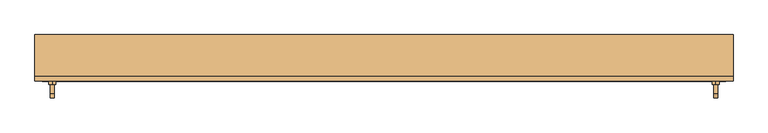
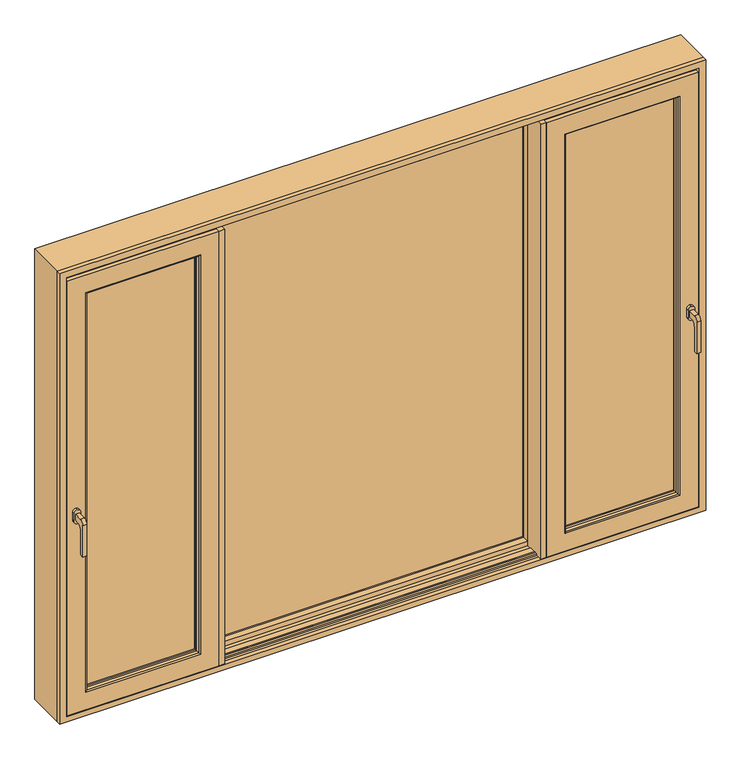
"""IFC4 building model written with IfcOpenShell, lengths in millimetres: door geometry, 3_pod-kli_2+fix : 3_pod-kli_2+fix."""

from ifc_helpers import new_model, si_unit, point, frame, frame_2d, origin, place, context, project, spatial, polyline, circle_curve, ellipse_curve, trimmed, segment, composite_curve, outline, extrude, faceted_brep, source, transform, mapped, element, save
from ifc_brep_helpers import plane_surface, cylinder_surface, advanced_brep


def door_69bad120(model_context):
    return source(origin(), model_context, "Body", "SolidModel", [
        extrude(outline(composite_curve([segment(polyline([(-88.0, 985.0), (-104.0, 985.0)]), True, "CONTINUOUS"), segment(trimmed(circle_curve(frame_2d((-104.0, 960.0)), 25.0), [point((-104.0, 985.0))], [point((-129.0, 960.0))], True, "CARTESIAN"), True, "CONTINUOUS"), segment(polyline([(-129.0, 960.0), (-129.0, 840.0), (-147.0, 840.0), (-147.0, 995.0)]), True, "CONTINUOUS"), segment(trimmed(circle_curve(frame_2d((-127.0, 995.0)), 20.0), [point((-147.0, 995.0))], [point((-127.0, 1015.0))], False, "CARTESIAN"), True, "CONTINUOUS"), segment(polyline([(-127.0, 1015.0), (-88.0, 1015.0), (-88.0, 1000.0), (-88.0, 985.0)]), True, "CONTINUOUS")], self_intersect=False)), frame((1416.6076899, 0.0, 0.0), z_axis=(1.0, 0.0, 0.0), x_axis=(0.0, 1.0, 0.0)), (0.0, 0.0, 1.0), 18.0),
        extrude(outline(composite_curve([segment(polyline([(981.0, 1440.6076899), (1019.0, 1440.6076899)]), True, "CONTINUOUS"), segment(trimmed(circle_curve(frame_2d((1019.0, 1425.6076899)), 15.0), [point((1019.0, 1440.6076899))], [point((1034.0, 1425.6076899))], False, "CARTESIAN"), True, "CONTINUOUS"), segment(trimmed(circle_curve(frame_2d((1019.0, 1425.6076899)), 15.0), [point((1034.0, 1425.6076899))], [point((1019.0, 1410.6076899))], False, "CARTESIAN"), True, "CONTINUOUS"), segment(polyline([(1019.0, 1410.6076899), (981.0, 1410.6076899)]), True, "CONTINUOUS"), segment(trimmed(circle_curve(frame_2d((981.0, 1425.6076899)), 15.0), [point((981.0, 1410.6076899))], [point((966.0, 1425.6076899))], False, "CARTESIAN"), True, "CONTINUOUS"), segment(trimmed(circle_curve(frame_2d((981.0, 1425.6076899)), 15.0), [point((966.0, 1425.6076899))], [point((981.0, 1440.6076899))], False, "CARTESIAN"), True, "CONTINUOUS")], self_intersect=False)), frame((0.0, -88.0, 0.0), z_axis=(0.0, 1.0, 0.0), x_axis=(0.0, 0.0, 1.0)), (0.0, 0.0, 1.0), 13.0),
        extrude(outline(polyline([(734.0002576, -75.0), (734.0002576, 30.0016512), (759.3, 30.0016512), (759.3, -75.0), (734.0002576, -75.0)])), frame((0.0, 0.0, 27.9994282), z_axis=(0.0, 0.0, 1.0), x_axis=(1.0, 0.0, 0.0)), (0.0, 0.0, 1.0), 2132.0005718),
        advanced_brep(
        [(845.6733525, -75.0000001, 2073.6269051), (845.6733525, -75.0000001, 114.3730949), (850.6260911, -70.6858427, 119.3258335), (850.6260911, -70.6858427, 2068.6741665), (852.7996957, -54.9893924, 121.4994381), (852.7996957, -54.9893924, 2066.5005619), (1378.6269051, -75.0000001, 114.3730949), (1373.6741665, -70.6858427, 119.3258335), (759.3002576, -75.0, 2160.0), (759.3002576, -75.0, 28.0), (1465.0, -75.0, 28.0), (1465.0, -75.0, 2160.0), (1378.6269051, -75.0, 2073.6269051), (759.3002576, -54.8399769, 2160.0), (759.3002576, -54.8399769, 28.0), (1465.0, -54.8399769, 28.0), (1465.0, -54.8399769, 2160.0), (826.3996957, -54.8399769, 2092.9005619), (826.3996957, -54.8399769, 95.0994381), (1397.9005619, -54.8399769, 95.0994381), (1397.9005619, -54.8399769, 2092.9005619), (826.3996957, -44.9908997, 2092.9005619), (826.3996957, -44.9908997, 95.0994381), (1397.9005619, -44.9908997, 95.0994381), (1397.9005619, -44.9908997, 2092.9005619), (852.7996957, -44.9908997, 2066.5005619), (852.7996957, -44.9908997, 121.4994381), (1371.5005619, -44.9908997, 121.4994381), (1371.5005619, -44.9908997, 2066.5005619), (1371.5005619, -54.9893924, 121.4994381), (1373.6741665, -70.6858427, 2068.6741665), (1371.5005619, -54.9893924, 2066.5005619)],
        [
            (0, 1),
            (1, 2, ellipse_curve(frame((845.6733525, -70.0000001, 114.3730949), z_axis=(-0.7071067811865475, 0.0, 0.7071067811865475), x_axis=(0.7071067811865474, 0.0, 0.7071067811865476)), 7.0710678, 5.0)),
            (2, 3),
            (3, 0, ellipse_curve(frame((845.6733525, -70.0000001, 2073.6269051), z_axis=(-0.7071067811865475, 0.0, -0.7071067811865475), x_axis=(-0.7071067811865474, 0.0, 0.7071067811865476)), 7.0710678, 5.0)),
            (2, 4),
            (4, 5),
            (5, 3),
            (1, 6),
            (6, 7, ellipse_curve(frame((1378.6269051, -70.0000001, 114.3730949), z_axis=(-0.7071067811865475, 0.0, -0.7071067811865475), x_axis=(-0.7071067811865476, 0.0, 0.7071067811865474)), 7.0710678, 5.0)),
            (7, 2),
            (8, 9),
            (9, 10),
            (10, 11),
            (11, 8),
            (0, 12),
            (12, 6),
            (13, 14),
            (14, 9),
            (8, 13),
            (14, 15),
            (15, 10),
            (13, 16),
            (16, 15),
            (17, 18),
            (18, 19),
            (19, 20),
            (20, 17),
            (21, 22),
            (22, 18),
            (17, 21),
            (22, 23),
            (23, 19),
            (21, 24),
            (24, 23),
            (25, 26),
            (26, 27),
            (27, 28),
            (28, 25),
            (4, 26),
            (25, 5),
            (4, 29),
            (29, 27),
            (7, 29),
            (12, 30, ellipse_curve(frame((1378.6269051, -70.0000001, 2073.6269051), z_axis=(0.7071067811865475, 0.0, -0.7071067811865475), x_axis=(-0.7071067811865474, 0.0, -0.7071067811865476)), 7.0710678, 5.0)),
            (30, 7),
            (16, 11),
            (24, 20),
            (29, 31),
            (31, 28),
            (30, 31),
            (3, 30),
            (31, 5),
        ],
        [
            cylinder_surface(frame((845.6733525, -70.0000001, 2188.0), z_axis=(0.0, 0.0, 1.0), x_axis=(-0.0001475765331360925, -0.9999999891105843, 0.0)), 5.0),
            plane_surface(frame((852.7996957, -54.9893924, 2066.5005619), z_axis=(0.9905477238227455, -0.13716853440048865, 0.0), x_axis=(0.0, 0.0, -1.0))),
            cylinder_surface(frame((731.3002576, -70.0000001, 114.3730949), z_axis=(-1.0000000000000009, 0.0, 0.0), x_axis=(0.0, -0.9999999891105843, -0.00014757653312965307)), 5.0),
            plane_surface(frame((1378.6269051, -75.0, 2073.6269051), z_axis=(0.0, -1.0, 0.0), x_axis=(-1.0, 0.0, 0.0))),
            plane_surface(frame((759.3002576, -75.0, 2160.0), z_axis=(-1.0, 0.0, 0.0), x_axis=(0.0, 0.0, -1.0))),
            plane_surface(frame((759.3002576, -75.0, 28.0), z_axis=(0.0, 0.0, -1.0), x_axis=(1.0, 0.0, 0.0))),
            plane_surface(frame((1465.0, -54.8399769, 2160.0), z_axis=(0.0, 1.0, 0.0), x_axis=(-1.0, 0.0, 0.0))),
            plane_surface(frame((826.3996957, -54.8399769, 2092.9005619), z_axis=(-1.0, 0.0, 0.0), x_axis=(0.0, 0.0, -1.0))),
            plane_surface(frame((826.3996957, -54.8399769, 95.0994381), z_axis=(0.0, 0.0, -1.0), x_axis=(1.0, 0.0, 0.0))),
            plane_surface(frame((1397.9005619, -44.9908997, 2092.9005619), z_axis=(0.0, 1.0, 0.0), x_axis=(-1.0, 0.0, 0.0))),
            plane_surface(frame((852.7996957, -44.9908997, 2066.5005619), z_axis=(1.0, 0.0, 0.0), x_axis=(0.0, 0.0, -1.0))),
            plane_surface(frame((852.7996957, -44.9908997, 121.4994381), z_axis=(0.0, 0.0, 1.0), x_axis=(1.0, 0.0, 0.0))),
            plane_surface(frame((852.7996957, -54.9893924, 121.4994381), z_axis=(0.0, -0.13716853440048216, 0.9905477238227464), x_axis=(1.0, 0.0, 0.0))),
            cylinder_surface(frame((1378.6269051, -70.0000001, 0.0), z_axis=(0.0, 0.0, -1.0), x_axis=(0.0001475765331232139, -0.9999999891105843, 0.0)), 5.0),
            plane_surface(frame((1465.0, -75.0, 28.0), z_axis=(1.0, 0.0, 0.0), x_axis=(0.0, 0.0, 1.0))),
            plane_surface(frame((1397.9005619, -54.8399769, 95.0994381), z_axis=(1.0, 0.0, 0.0), x_axis=(0.0, 0.0, 1.0))),
            plane_surface(frame((1371.5005619, -44.9908997, 121.4994381), z_axis=(-1.0, 0.0, 0.0), x_axis=(0.0, 0.0, 1.0))),
            plane_surface(frame((1371.5005619, -54.9893924, 121.4994381), z_axis=(-0.9905477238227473, -0.13716853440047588, 0.0), x_axis=(0.0, 0.0, 1.0))),
            cylinder_surface(frame((1493.0, -70.0000001, 2073.6269051), z_axis=(1.0000000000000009, 0.0, 0.0), x_axis=(0.0, -0.9999999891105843, 0.00014757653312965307)), 5.0),
            plane_surface(frame((1465.0, -75.0, 2160.0), z_axis=(0.0, 0.0, 1.0), x_axis=(-1.0, 0.0, 0.0))),
            plane_surface(frame((1397.9005619, -54.8399769, 2092.9005619), z_axis=(0.0, 0.0, 1.0), x_axis=(-1.0, 0.0, 0.0))),
            plane_surface(frame((1371.5005619, -44.9908997, 2066.5005619), z_axis=(0.0, 0.0, -1.0), x_axis=(-1.0, 0.0, 0.0))),
            plane_surface(frame((1371.5005619, -54.9893924, 2066.5005619), z_axis=(0.0, -0.13716853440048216, -0.9905477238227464), x_axis=(-1.0, 0.0, 0.0))),
        ],
        [
            (0, [[1, 2, 3, 4]]),
            (1, [[-3, 5, 6, 7]]),
            (2, [[8, 9, 10, -2]]),
            (3, [[11, 12, 13, 14], [-1, 15, 16, -8]]),
            (4, [[17, 18, -11, 19]]),
            (5, [[20, 21, -12, -18]]),
            (6, [[-17, 22, 23, -20], [24, 25, 26, 27]]),
            (7, [[28, 29, -24, 30]]),
            (8, [[31, 32, -25, -29]]),
            (9, [[-28, 33, 34, -31], [35, 36, 37, 38]]),
            (10, [[-6, 39, -35, 40]]),
            (11, [[41, 42, -36, -39]]),
            (12, [[-10, 43, -41, -5]]),
            (13, [[-16, 44, 45, -9]]),
            (14, [[-23, 46, -13, -21]]),
            (15, [[-34, 47, -26, -32]]),
            (16, [[48, 49, -37, -42]]),
            (17, [[-45, 50, -48, -43]]),
            (18, [[-15, -4, 51, -44]]),
            (19, [[-22, -19, -14, -46]]),
            (20, [[-33, -30, -27, -47]]),
            (21, [[52, -40, -38, -49]]),
            (22, [[-51, -7, -52, -50]]),
        ],
    ),
        extrude(outline(polyline([(836.79969, -36.9872085), (836.79969, 9.0127085), (1387.5005675, 9.0127085), (1387.5005675, -36.9872085), (836.79969, -36.9872085)])), frame((0.0, 0.0, 105.4994325), z_axis=(0.0, 0.0, 1.0), x_axis=(1.0, 0.0, 0.0)), (0.0, 0.0, 1.0), 1977.001135),
        faceted_brep([(1465.0, -54.8399769, 28.0), (759.3002576, -54.8399769, 28.0), (759.3002576, -45.6389612, 28.0), (1465.0, -45.6389612, 28.0), (759.3002576, -54.8399769, 2160.0), (759.3002576, -45.6389612, 2160.0), (1465.0, -45.6389612, 2160.0), (780.7996854, -45.6389612, 2138.5005722), (780.7996854, -45.6389612, 49.4994278), (1443.5005722, -45.6389612, 49.4994278), (1443.5005722, -45.6389612, 2138.5005722), (1465.0, -54.8399769, 2160.0), (826.3996957, -54.8399769, 95.0994381), (826.3996957, -54.8399769, 2092.9005619), (1397.9005619, -54.8399769, 2092.9005619), (1397.9005619, -54.8399769, 95.0994381), (1397.9005619, -44.9908997, 95.0994381), (826.3996957, -44.9908997, 95.0994381), (826.3996957, -44.9908997, 2092.9005619), (1397.9005619, -44.9908997, 2092.9005619), (852.7996957, -44.9908997, 121.4994381), (852.7996957, -44.9908997, 2066.5005619), (1371.5005619, -44.9908997, 2066.5005619), (1371.5005619, -44.9908997, 121.4994381), (1371.5005619, -36.9872085, 121.4994381), (852.7996957, -36.9872085, 121.4994381), (852.7996957, -36.9872085, 2066.5005619), (836.79969, -36.9872085, 105.4994325), (836.79969, -36.9872085, 2082.5005675), (1387.5005675, -36.9872085, 2082.5005675), (1387.5005675, -36.9872085, 105.4994325), (1371.5005619, -36.9872085, 2066.5005619), (1387.5005675, 9.0127085, 105.4994325), (836.79969, 9.0127085, 105.4994325), (836.79969, 9.0127085, 2082.5005675), (1387.5005675, 9.0127085, 2082.5005675), (851.799685, 9.0127085, 120.4994274), (851.799685, 9.0127085, 2067.5005726), (1372.5005726, 9.0127085, 2067.5005726), (1372.5005726, 9.0127085, 120.4994274), (1372.5005726, 17.0100227, 120.4994274), (851.799685, 17.0100227, 120.4994274), (851.799685, 17.0100227, 2067.5005726), (759.2996857, 17.0100227, 27.9994282), (759.2996857, 17.0100227, 2160.0005718), (1465.0005718, 17.0100227, 2160.0005718), (1465.0005718, 17.0100227, 27.9994282), (1372.5005726, 17.0100227, 2067.5005726), (1465.0005718, 12.5090496, 27.9994282), (759.2996857, 12.5090496, 27.9994282), (759.2996857, 12.5090496, 2160.0005718), (1465.0005718, 12.5090496, 2160.0005718), (780.7996854, 12.5090496, 49.4994278), (780.7996854, 12.5090496, 2138.5005722), (1443.5005722, 12.5090496, 2138.5005722), (1443.5005722, 12.5090496, 49.4994278)], [[[0, 1, 2, 3]], [[1, 4, 5, 2]], [[2, 5, 6, 3], [7, 8, 9, 10]], [[4, 1, 0, 11], [12, 13, 14, 15]], [[16, 17, 12, 15]], [[17, 18, 13, 12]], [[18, 17, 16, 19], [20, 21, 22, 23]], [[24, 25, 20, 23]], [[25, 26, 21, 20]], [[27, 28, 29, 30], [26, 25, 24, 31]], [[32, 33, 27, 30]], [[33, 34, 28, 27]], [[34, 33, 32, 35], [36, 37, 38, 39]], [[40, 41, 36, 39]], [[41, 42, 37, 36]], [[43, 44, 45, 46], [42, 41, 40, 47]], [[48, 49, 43, 46]], [[49, 50, 44, 43]], [[50, 49, 48, 51], [52, 53, 54, 55]], [[9, 8, 52, 55]], [[8, 7, 53, 52]], [[11, 0, 3, 6]], [[19, 16, 15, 14]], [[31, 24, 23, 22]], [[35, 32, 30, 29]], [[47, 40, 39, 38]], [[51, 48, 46, 45]], [[10, 9, 55, 54]], [[4, 11, 6, 5]], [[18, 19, 14, 13]], [[26, 31, 22, 21]], [[34, 35, 29, 28]], [[42, 47, 38, 37]], [[50, 51, 45, 44]], [[7, 10, 54, 53]]]),
        extrude(outline(composite_curve([segment(polyline([(-88.0, 985.0), (-104.0, 985.0)]), True, "CONTINUOUS"), segment(trimmed(circle_curve(frame_2d((-104.0, 960.0)), 25.0), [point((-104.0, 985.0))], [point((-129.0, 960.0))], True, "CARTESIAN"), True, "CONTINUOUS"), segment(polyline([(-129.0, 960.0), (-129.0, 840.0), (-147.0, 840.0), (-147.0, 995.0)]), True, "CONTINUOUS"), segment(trimmed(circle_curve(frame_2d((-127.0, 995.0)), 20.0), [point((-147.0, 995.0))], [point((-127.0, 1015.0))], False, "CARTESIAN"), True, "CONTINUOUS"), segment(polyline([(-127.0, 1015.0), (-88.0, 1015.0), (-88.0, 1000.0), (-88.0, 985.0)]), True, "CONTINUOUS")], self_intersect=False)), frame((-1434.6076899, 0.0, 0.0), z_axis=(1.0, 0.0, 0.0), x_axis=(0.0, 1.0, 0.0)), (0.0, 0.0, 1.0), 18.0),
        extrude(outline(composite_curve([segment(trimmed(circle_curve(frame_2d((981.0, -1425.6076899)), 15.0), [point((981.0, -1440.6076899))], [point((966.0, -1425.6076899))], False, "CARTESIAN"), True, "CONTINUOUS"), segment(trimmed(circle_curve(frame_2d((981.0, -1425.6076899)), 15.0), [point((966.0, -1425.6076899))], [point((981.0, -1410.6076899))], False, "CARTESIAN"), True, "CONTINUOUS"), segment(polyline([(981.0, -1410.6076899), (1019.0, -1410.6076899)]), True, "CONTINUOUS"), segment(trimmed(circle_curve(frame_2d((1019.0, -1425.6076899)), 15.0), [point((1019.0, -1410.6076899))], [point((1034.0, -1425.6076899))], False, "CARTESIAN"), True, "CONTINUOUS"), segment(trimmed(circle_curve(frame_2d((1019.0, -1425.6076899)), 15.0), [point((1034.0, -1425.6076899))], [point((1019.0, -1440.6076899))], False, "CARTESIAN"), True, "CONTINUOUS"), segment(polyline([(1019.0, -1440.6076899), (981.0, -1440.6076899)]), True, "CONTINUOUS")], self_intersect=False)), frame((0.0, -88.0, 0.0), z_axis=(0.0, 1.0, 0.0), x_axis=(0.0, 0.0, 1.0)), (0.0, 0.0, 1.0), 13.0),
        extrude(outline(polyline([(-734.0002576, -75.0), (-759.3, -75.0), (-759.3, 30.0016512), (-734.0002576, 30.0016512), (-734.0002576, -75.0)])), frame((0.0, 0.0, 27.9994282), z_axis=(0.0, 0.0, 1.0), x_axis=(1.0, 0.0, 0.0)), (0.0, 0.0, 1.0), 2132.0005718),
        advanced_brep(
        [(-845.6733525, -75.0000001, 2073.6269051), (-850.6260911, -70.6858427, 2068.6741665), (-850.6260911, -70.6858427, 119.3258335), (-845.6733525, -75.0000001, 114.3730949), (-852.7996957, -54.9893924, 2066.5005619), (-852.7996957, -54.9893924, 121.4994381), (-1373.6741665, -70.6858427, 119.3258335), (-1378.6269051, -75.0000001, 114.3730949), (-759.3002576, -75.0, 2160.0), (-1465.0, -75.0, 2160.0), (-1465.0, -75.0, 28.0), (-759.3002576, -75.0, 28.0), (-1378.6269051, -75.0, 2073.6269051), (-759.3002576, -54.8399769, 2160.0), (-759.3002576, -54.8399769, 28.0), (-1465.0, -54.8399769, 28.0), (-1465.0, -54.8399769, 2160.0), (-826.3996957, -54.8399769, 2092.9005619), (-1397.9005619, -54.8399769, 2092.9005619), (-1397.9005619, -54.8399769, 95.0994381), (-826.3996957, -54.8399769, 95.0994381), (-826.3996957, -44.9908997, 2092.9005619), (-826.3996957, -44.9908997, 95.0994381), (-1397.9005619, -44.9908997, 95.0994381), (-1397.9005619, -44.9908997, 2092.9005619), (-852.7996957, -44.9908997, 2066.5005619), (-1371.5005619, -44.9908997, 2066.5005619), (-1371.5005619, -44.9908997, 121.4994381), (-852.7996957, -44.9908997, 121.4994381), (-1371.5005619, -54.9893924, 121.4994381), (-1373.6741665, -70.6858427, 2068.6741665), (-1371.5005619, -54.9893924, 2066.5005619)],
        [
            (0, 1, ellipse_curve(frame((-845.6733525, -70.0000001, 2073.6269051), z_axis=(0.7071067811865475, 0.0, -0.7071067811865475), x_axis=(0.7071067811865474, 0.0, 0.7071067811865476)), 7.0710678, 5.0)),
            (1, 2),
            (2, 3, ellipse_curve(frame((-845.6733525, -70.0000001, 114.3730949), z_axis=(0.7071067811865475, 0.0, 0.7071067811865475), x_axis=(-0.7071067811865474, 0.0, 0.7071067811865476)), 7.0710678, 5.0)),
            (3, 0),
            (1, 4),
            (4, 5),
            (5, 2),
            (2, 6),
            (6, 7, ellipse_curve(frame((-1378.6269051, -70.0000001, 114.3730949), z_axis=(0.7071067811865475, 0.0, -0.7071067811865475), x_axis=(0.7071067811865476, 0.0, 0.7071067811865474)), 7.0710678, 5.0)),
            (7, 3),
            (8, 9),
            (9, 10),
            (10, 11),
            (11, 8),
            (7, 12),
            (12, 0),
            (13, 8),
            (11, 14),
            (14, 13),
            (10, 15),
            (15, 14),
            (15, 16),
            (16, 13),
            (17, 18),
            (18, 19),
            (19, 20),
            (20, 17),
            (21, 17),
            (20, 22),
            (22, 21),
            (19, 23),
            (23, 22),
            (23, 24),
            (24, 21),
            (25, 26),
            (26, 27),
            (27, 28),
            (28, 25),
            (4, 25),
            (28, 5),
            (27, 29),
            (29, 5),
            (29, 6),
            (6, 30),
            (30, 12, ellipse_curve(frame((-1378.6269051, -70.0000001, 2073.6269051), z_axis=(-0.7071067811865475, 0.0, -0.7071067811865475), x_axis=(0.7071067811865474, 0.0, -0.7071067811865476)), 7.0710678, 5.0)),
            (9, 16),
            (18, 24),
            (26, 31),
            (31, 29),
            (31, 30),
            (30, 1),
            (4, 31),
        ],
        [
            cylinder_surface(frame((-845.6733525, -70.0000001, 2188.0), z_axis=(0.0, 0.0, 1.0), x_axis=(0.00014757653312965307, -0.9999999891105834, 0.0)), 5.0),
            plane_surface(frame((-852.7996957, -54.9893924, 2066.5005619), z_axis=(-0.9905477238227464, -0.13716853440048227, 0.0), x_axis=(0.0, 0.0, -1.0))),
            cylinder_surface(frame((-731.3002576, -70.0000001, 114.3730949), z_axis=(1.0, 0.0, 0.0), x_axis=(0.0, -0.9999999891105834, -0.00014757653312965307)), 5.0),
            plane_surface(frame((-1378.6269051, -75.0, 2073.6269051), z_axis=(0.0, -1.0, 0.0), x_axis=(1.0, 0.0, 0.0))),
            plane_surface(frame((-759.3002576, -75.0, 2160.0), z_axis=(1.0, 0.0, 0.0), x_axis=(0.0, 0.0, -1.0))),
            plane_surface(frame((-759.3002576, -75.0, 28.0), z_axis=(0.0, 0.0, -1.0), x_axis=(-1.0, 0.0, 0.0))),
            plane_surface(frame((-1465.0, -54.8399769, 2160.0), z_axis=(0.0, 1.0, 0.0), x_axis=(1.0, 0.0, 0.0))),
            plane_surface(frame((-826.3996957, -54.8399769, 2092.9005619), z_axis=(1.0, 0.0, 0.0), x_axis=(0.0, 0.0, -1.0))),
            plane_surface(frame((-826.3996957, -54.8399769, 95.0994381), z_axis=(0.0, 0.0, -1.0), x_axis=(-1.0, 0.0, 0.0))),
            plane_surface(frame((-1397.9005619, -44.9908997, 2092.9005619), z_axis=(0.0, 1.0, 0.0), x_axis=(1.0, 0.0, 0.0))),
            plane_surface(frame((-852.7996957, -44.9908997, 2066.5005619), z_axis=(-1.0, 0.0, 0.0), x_axis=(0.0, 0.0, -1.0))),
            plane_surface(frame((-852.7996957, -44.9908997, 121.4994381), z_axis=(0.0, 0.0, 1.0), x_axis=(-1.0, 0.0, 0.0))),
            plane_surface(frame((-852.7996957, -54.9893924, 121.4994381), z_axis=(0.0, -0.13716853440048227, 0.9905477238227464), x_axis=(-1.0, 0.0, 0.0))),
            cylinder_surface(frame((-1378.6269051, -70.0000001, 0.0), z_axis=(0.0, 0.0, -1.0), x_axis=(-0.00014757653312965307, -0.9999999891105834, 0.0)), 5.0),
            plane_surface(frame((-1465.0, -75.0, 28.0), z_axis=(-1.0, 0.0, 0.0), x_axis=(0.0, 0.0, 1.0))),
            plane_surface(frame((-1397.9005619, -54.8399769, 95.0994381), z_axis=(-1.0, 0.0, 0.0), x_axis=(0.0, 0.0, 1.0))),
            plane_surface(frame((-1371.5005619, -44.9908997, 121.4994381), z_axis=(1.0, 0.0, 0.0), x_axis=(0.0, 0.0, 1.0))),
            plane_surface(frame((-1371.5005619, -54.9893924, 121.4994381), z_axis=(0.9905477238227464, -0.13716853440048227, 0.0), x_axis=(0.0, 0.0, 1.0))),
            cylinder_surface(frame((-1493.0, -70.0000001, 2073.6269051), z_axis=(-1.0, 0.0, 0.0), x_axis=(0.0, -0.9999999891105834, 0.00014757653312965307)), 5.0),
            plane_surface(frame((-1465.0, -75.0, 2160.0), z_axis=(0.0, 0.0, 1.0), x_axis=(1.0, 0.0, 0.0))),
            plane_surface(frame((-1397.9005619, -54.8399769, 2092.9005619), z_axis=(0.0, 0.0, 1.0), x_axis=(1.0, 0.0, 0.0))),
            plane_surface(frame((-1371.5005619, -44.9908997, 2066.5005619), z_axis=(0.0, 0.0, -1.0), x_axis=(1.0, 0.0, 0.0))),
            plane_surface(frame((-1371.5005619, -54.9893924, 2066.5005619), z_axis=(0.0, -0.13716853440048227, -0.9905477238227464), x_axis=(1.0, 0.0, 0.0))),
        ],
        [
            (0, [[1, 2, 3, 4]]),
            (1, [[5, 6, 7, -2]]),
            (2, [[-3, 8, 9, 10]]),
            (3, [[11, 12, 13, 14], [-10, 15, 16, -4]]),
            (4, [[17, -14, 18, 19]]),
            (5, [[-18, -13, 20, 21]]),
            (6, [[-21, 22, 23, -19], [24, 25, 26, 27]]),
            (7, [[28, -27, 29, 30]]),
            (8, [[-29, -26, 31, 32]]),
            (9, [[-32, 33, 34, -30], [35, 36, 37, 38]]),
            (10, [[39, -38, 40, -6]]),
            (11, [[-40, -37, 41, 42]]),
            (12, [[-7, -42, 43, -8]]),
            (13, [[-9, 44, 45, -15]]),
            (14, [[-20, -12, 46, -22]]),
            (15, [[-31, -25, 47, -33]]),
            (16, [[-41, -36, 48, 49]]),
            (17, [[-43, -49, 50, -44]]),
            (18, [[-45, 51, -1, -16]]),
            (19, [[-46, -11, -17, -23]]),
            (20, [[-47, -24, -28, -34]]),
            (21, [[-48, -35, -39, 52]]),
            (22, [[-50, -52, -5, -51]]),
        ],
    ),
        extrude(outline(polyline([(-836.79969, -36.9872085), (-1387.5005675, -36.9872085), (-1387.5005675, 9.0127085), (-836.79969, 9.0127085), (-836.79969, -36.9872085)])), frame((0.0, 0.0, 105.4994325), z_axis=(0.0, 0.0, 1.0), x_axis=(1.0, 0.0, 0.0)), (0.0, 0.0, 1.0), 1977.001135),
        faceted_brep([(-1465.0, -54.8399769, 28.0), (-1465.0, -45.6389612, 28.0), (-759.3002576, -45.6389612, 28.0), (-759.3002576, -54.8399769, 28.0), (-759.3002576, -45.6389612, 2160.0), (-759.3002576, -54.8399769, 2160.0), (-1465.0, -45.6389612, 2160.0), (-780.7996854, -45.6389612, 2138.5005722), (-1443.5005722, -45.6389612, 2138.5005722), (-1443.5005722, -45.6389612, 49.4994278), (-780.7996854, -45.6389612, 49.4994278), (-1465.0, -54.8399769, 2160.0), (-826.3996957, -54.8399769, 95.0994381), (-1397.9005619, -54.8399769, 95.0994381), (-1397.9005619, -54.8399769, 2092.9005619), (-826.3996957, -54.8399769, 2092.9005619), (-1397.9005619, -44.9908997, 95.0994381), (-826.3996957, -44.9908997, 95.0994381), (-826.3996957, -44.9908997, 2092.9005619), (-1397.9005619, -44.9908997, 2092.9005619), (-852.7996957, -44.9908997, 121.4994381), (-1371.5005619, -44.9908997, 121.4994381), (-1371.5005619, -44.9908997, 2066.5005619), (-852.7996957, -44.9908997, 2066.5005619), (-1371.5005619, -36.9872085, 121.4994381), (-852.7996957, -36.9872085, 121.4994381), (-852.7996957, -36.9872085, 2066.5005619), (-836.79969, -36.9872085, 105.4994325), (-1387.5005675, -36.9872085, 105.4994325), (-1387.5005675, -36.9872085, 2082.5005675), (-836.79969, -36.9872085, 2082.5005675), (-1371.5005619, -36.9872085, 2066.5005619), (-1387.5005675, 9.0127085, 105.4994325), (-836.79969, 9.0127085, 105.4994325), (-836.79969, 9.0127085, 2082.5005675), (-1387.5005675, 9.0127085, 2082.5005675), (-851.799685, 9.0127085, 120.4994274), (-1372.5005726, 9.0127085, 120.4994274), (-1372.5005726, 9.0127085, 2067.5005726), (-851.799685, 9.0127085, 2067.5005726), (-1372.5005726, 17.0100227, 120.4994274), (-851.799685, 17.0100227, 120.4994274), (-851.799685, 17.0100227, 2067.5005726), (-759.2996857, 17.0100227, 27.9994282), (-1465.0005718, 17.0100227, 27.9994282), (-1465.0005718, 17.0100227, 2160.0005718), (-759.2996857, 17.0100227, 2160.0005718), (-1372.5005726, 17.0100227, 2067.5005726), (-1465.0005718, 12.5090496, 27.9994282), (-759.2996857, 12.5090496, 27.9994282), (-759.2996857, 12.5090496, 2160.0005718), (-1465.0005718, 12.5090496, 2160.0005718), (-780.7996854, 12.5090496, 49.4994278), (-1443.5005722, 12.5090496, 49.4994278), (-1443.5005722, 12.5090496, 2138.5005722), (-780.7996854, 12.5090496, 2138.5005722)], [[[0, 1, 2, 3]], [[3, 2, 4, 5]], [[2, 1, 6, 4], [7, 8, 9, 10]], [[5, 11, 0, 3], [12, 13, 14, 15]], [[16, 13, 12, 17]], [[17, 12, 15, 18]], [[18, 19, 16, 17], [20, 21, 22, 23]], [[24, 21, 20, 25]], [[25, 20, 23, 26]], [[27, 28, 29, 30], [26, 31, 24, 25]], [[32, 28, 27, 33]], [[33, 27, 30, 34]], [[34, 35, 32, 33], [36, 37, 38, 39]], [[40, 37, 36, 41]], [[41, 36, 39, 42]], [[43, 44, 45, 46], [42, 47, 40, 41]], [[48, 44, 43, 49]], [[49, 43, 46, 50]], [[50, 51, 48, 49], [52, 53, 54, 55]], [[9, 53, 52, 10]], [[10, 52, 55, 7]], [[11, 6, 1, 0]], [[19, 14, 13, 16]], [[31, 22, 21, 24]], [[35, 29, 28, 32]], [[47, 38, 37, 40]], [[51, 45, 44, 48]], [[8, 54, 53, 9]], [[5, 4, 6, 11]], [[18, 15, 14, 19]], [[26, 23, 22, 31]], [[34, 30, 29, 35]], [[42, 39, 38, 47]], [[50, 46, 45, 51]], [[7, 55, 54, 8]]]),
        faceted_brep([(-750.0, 62.9912191, 28.0008789), (-750.0, 32.9912191, 28.0008789), (-750.0, 32.9912191, 35.0008765), (-750.0, 62.9912191, 35.0008765), (750.0, 62.9912191, 28.0008789), (750.0, 32.9912191, 28.0008789), (750.0, 32.9912191, 35.0008765), (843.9998879, 32.9912191, 35.0008765), (843.9998879, 32.9912191, 2166.0000024), (750.0, 32.9912191, 2166.0000024), (750.0, 32.9912191, 2170.9999968), (-750.0, 32.9912191, 2170.9999968), (-750.0, 32.9912191, 2166.0000024), (-843.9998879, 32.9912191, 2166.0000024), (-843.9998879, 32.9912191, 35.0008765), (-733.9998879, 32.9912191, 2149.9999968), (733.9998879, 32.9912191, 2149.9999968), (733.9998879, 32.9912191, 51.0008822), (-733.9998879, 32.9912191, 51.0008822), (-760.3998879, 53.1509228, 35.0008765), (-760.3998879, 63.0, 35.0008765), (-843.9998879, 53.1509228, 35.0008765), (-760.3998879, 62.9912191, 2166.0000024), (-750.0, 62.9912191, 2166.0000024), (-750.0, 62.9912191, 2170.9999968), (750.0, 62.9912191, 2170.9999968), (750.0, 62.9912191, 2166.0000024), (760.3998879, 62.9912191, 2166.0000024), (760.3998879, 62.9912191, 35.0008765), (750.0, 62.9912191, 35.0008765), (-733.9998879, 62.9912191, 51.0008822), (733.9998879, 62.9912191, 51.0008822), (733.9998879, 62.9912191, 2149.9999968), (-733.9998879, 62.9912191, 2149.9999968), (760.3998879, 53.1509228, 35.0008765), (843.9998879, 53.1509228, 35.0008765), (-760.3998879, 53.1509228, 2166.0000024), (760.3998879, 53.1509228, 2166.0000024), (843.9998879, 53.1509228, 2166.0000024), (-843.9998879, 53.1509228, 2166.0000024)], [[[0, 1, 2, 3]], [[1, 0, 4, 5]], [[1, 5, 6, 7, 8, 9, 10, 11, 12, 13, 14, 2], [15, 16, 17, 18]], [[19, 20, 3, 2, 14, 21]], [[4, 0, 3, 20, 22, 23, 24, 25, 26, 27, 28, 29], [30, 31, 32, 33]], [[5, 4, 29, 6]], [[34, 35, 7, 6, 29, 28]], [[36, 22, 20, 19]], [[34, 28, 27, 37]], [[30, 18, 17, 31]], [[17, 16, 32, 31]], [[18, 30, 33, 15]], [[7, 35, 38, 8]], [[13, 39, 21, 14]], [[39, 36, 19, 21]], [[35, 34, 37, 38]], [[36, 39, 13, 12, 23, 22]], [[11, 24, 23, 12]], [[25, 10, 9, 26]], [[24, 11, 10, 25]], [[15, 33, 32, 16]], [[37, 27, 26, 9, 8, 38]]]),
        faceted_brep([(-1500.0, -54.8607464, 0.0), (-1500.0, -75.0, 0.0), (-1500.0, -75.0, 2210.0), (-1500.0, -54.85, 2210.0), (1500.0, -75.0, 0.0), (1500.0, -54.8607464, 0.0), (1500.0, -75.0, 2210.0), (-1467.9994303, -75.0, 2177.9994303), (1467.9994303, -75.0, 2177.9994303), (1467.9994303, -75.0, 25.0), (-1467.9994303, -75.0, 25.0), (1500.0, -54.8607464, 2210.0), (-1467.9994303, -54.8607464, 25.0), (1467.9994303, -54.8607464, 25.0), (1467.9994303, -54.8607464, 2177.9994303), (-1467.9994303, -54.8607464, 2177.9994303)], [[[0, 1, 2, 3]], [[4, 1, 0, 5]], [[4, 6, 2, 1], [7, 8, 9, 10]], [[11, 5, 0, 3], [12, 13, 14, 15]], [[11, 6, 4, 5]], [[9, 8, 14, 13]], [[12, 10, 9, 13]], [[10, 12, 15, 7]], [[11, 3, 2, 6]], [[7, 15, 14, 8]]]),
        extrude(outline(polyline([(750.0, 70.9958834), (-750.0, 70.9958834), (-750.0, 116.9948273), (750.0, 116.9948273), (750.0, 70.9958834)])), frame((0.0, 0.0, 35.0008765), z_axis=(0.0, 0.0, 1.0), x_axis=(1.0, 0.0, 0.0)), (0.0, 0.0, 1.0), 2130.9991259),
        advanced_brep(
        [(-1500.0, 125.0, 0.0), (-1458.0046937, 125.0, 0.0), (-1458.0046937, 111.1919832, 0.0), (1458.0046937, 111.1919832, 0.0), (1458.0046937, 125.0, 0.0), (1500.0, 125.0, 0.0), (1500.0, -54.85, 0.0), (-1500.0, -54.85, 0.0), (-1500.0, 125.0, 2210.0), (1500.0, 125.0, 2210.0), (1458.0046937, 125.0, 8.6004634), (-1458.0046937, 125.0, 8.6004634), (-735.0000051, 125.0, 50.0000088), (735.0000051, 125.0, 50.0000088), (735.0000051, 125.0, 2151.0), (-735.0000051, 125.0, 2151.0), (1458.0046937, 125.0, 29.2995502), (1458.0046937, 125.0, 2151.0), (852.8005235, 125.0, 2151.0), (852.8005235, 125.0, 29.2999422), (-1458.0046937, 125.0, 2151.0), (-1458.0046937, 125.0, 29.2995502), (-852.8005235, 125.0, 29.2999422), (-852.8005235, 125.0, 2151.0), (-1458.0046937, 111.1919832, 8.6004634), (-1458.0046937, 17.002619, 2151.0), (-1458.0046937, 17.002619, 35.1622652), (1458.0046937, 111.1919832, 8.6004634), (-852.8005235, 111.1919832, 8.6004634), (-750.0, 111.1919832, 8.6004634), (750.0, 111.1919832, 8.6004634), (852.8005235, 111.1919832, 8.6004634), (1458.0046937, 16.9921419, 2151.0), (1458.0046937, 17.0024478, 35.1622745), (1500.0, -54.8639485, 2210.0), (-1500.0, -54.85, 2210.0), (-1467.9994303, -54.85, 2177.9994303), (1467.9994303, -54.85, 2177.9994303), (1467.9994303, -54.85, 25.0), (-1467.9994303, -54.85, 25.0), (-1458.0, -35.4639485, 2162.9482942), (-1458.0, -35.4639485, 2177.9994303), (-1458.0, -45.6463649, 2177.9994303), (-1458.0, -45.6463649, 33.1), (-1458.0, -30.7710268, 33.1), (-1458.0, -30.7710268, 34.5086179), (-1458.0, -26.0710268, 34.4968418), (-1458.0, -26.0710268, 33.1), (-1458.0, 12.5016459, 33.1), (-1458.0, 12.5016459, 2175.5), (-1458.0, 2.1411688, 2175.5), (-1458.0, 2.1411688, 2163.1), (-1458.0, 6.9911688, 2158.25), (-1458.0, 6.9911688, 2151.0), (-1458.0, -40.1622427, 2151.0), (-1458.0, -40.1622427, 2158.25), (-1465.0, 12.5016459, 2175.5), (-750.0, 12.5016459, 33.1), (-750.0, 12.5016459, 27.9994282), (-1465.0, 12.5016459, 27.9994282), (1458.0, 12.5016459, 33.1), (750.0, 12.5016459, 33.1), (750.0, 7.2422965, 33.1), (-750.0, 7.2422965, 33.1), (1458.0, -26.0710268, 33.1), (-750.0, 8.1393641, 28.0008789), (-750.0, -45.6463649, 33.1), (-750.0, -45.6463649, 25.0), (-750.0, -41.7953413, 25.0), (-750.0, -40.4154149, 33.1), (-750.0, 17.002619, 35.1622652), (-750.0, 17.002619, 27.9994282), (-750.0, 62.9912191, 27.9994282), (-750.0, 62.9912191, 32.6657412), (1465.0, 12.5016459, 27.9994282), (1465.0, 17.0024842, 27.9994282), (750.0, 17.002619, 27.9994282), (750.0, 62.9912191, 27.9994282), (-1465.0, 17.002619, 27.9994282), (750.0, 8.1393641, 27.9994282), (750.0, 12.5016459, 27.9994282), (-1465.0, 17.002619, 2175.5), (-1467.9994303, -45.6463649, 2177.9994303), (-1467.9994303, -45.6463649, 25.0), (750.0, -45.6463649, 33.1), (1458.0, -45.6463649, 33.1), (1458.0, -30.7710268, 33.1), (750.0, -40.4154149, 33.1), (1458.0, -30.7710268, 34.5086179), (750.0, -30.7710268, 34.5086179), (-750.0, -30.7710268, 34.5086179), (-750.0, -26.0710268, 34.4968418), (750.0, -26.0710268, 34.4968418), (1458.0, -26.0710268, 34.4968418), (1467.9994303, -45.6463649, 25.0), (750.0, -45.6463649, 25.0), (750.0, -41.7953413, 25.0), (1467.9994303, -45.6463649, 2177.9994303), (852.8005235, 19.9992712, 2151.0), (852.8005235, 19.9992712, 34.9995898), (750.0, 17.002619, 35.1622652), (844.000536, 19.9992712, 34.9995898), (844.000536, 53.1509228, 33.1999287), (760.3998879, 53.1509228, 33.1999287), (760.3998879, 63.0, 32.6652645), (750.0, 63.0, 32.6652645), (-760.3998879, 63.0, 32.6652645), (-760.3998879, 53.1509228, 33.1999287), (-844.000536, 53.1509228, 33.1999287), (-844.000536, 19.9992712, 34.9995898), (-852.8005235, 19.9992712, 34.9995898), (-852.8005235, 19.9992712, 2151.0), (-735.0000051, 116.9948273, 50.0000088), (735.0000051, 116.9948273, 50.0000088), (735.0000051, 116.9938542, 2151.0), (-735.0000051, 116.9938542, 2151.0), (-750.0, 17.002619, 2151.0), (-750.0, 17.002619, 2175.5), (-750.0, 2.1411688, 2175.5), (-750.0, 62.990246, 2151.0), (-750.0, 62.990246, 2176.3999968), (-750.0, 2.1411688, 2176.3999968), (-750.0, 116.9938542, 2166.0000024), (-750.0, 70.9939372, 2166.0000024), (-750.0, 70.9949103, 35.0008765), (-750.0, 116.9948273, 35.0008765), (750.0, 70.9939372, 2166.0000024), (750.0, 70.9939372, 35.0008765), (-733.9998879, 70.9939372, 51.0008822), (733.9998879, 70.9939372, 51.0008822), (733.9998879, 70.9939372, 2149.9999968), (-733.9998879, 70.9939372, 2149.9999968), (750.0, 116.9948273, 35.0008765), (750.0, 116.9938542, 2166.0000024), (750.0, 16.9921419, 2151.0), (750.0, 16.9921419, 2175.5), (750.0, 2.1411688, 2175.5), (750.0, 2.1411688, 2176.3999968), (750.0, 62.990246, 2176.3999968), (750.0, 62.990246, 2151.0), (1465.0, 16.9921419, 2175.5), (1465.0, 12.5016459, 2175.5), (-733.9998879, 62.9912191, 51.0008822), (733.9998879, 62.9912191, 51.0008822), (733.9998879, 62.990246, 2149.9999968), (-733.9998879, 62.990246, 2149.9999968), (-760.3998879, 62.990246, 2151.0), (760.3998879, 62.990246, 2151.0), (-760.3998879, 53.1509228, 2151.0), (760.3998879, 53.1509228, 2151.0), (1458.0, 12.5016459, 2175.5), (1458.0, -45.6463649, 2177.9994303), (1458.0, -35.4639485, 2177.9994303), (1458.0, -35.4639485, 2162.9482942), (1458.0, -40.1622427, 2158.25), (1458.0, -40.1622427, 2151.0), (1458.0, 6.9911688, 2151.0), (1458.0, 6.9911688, 2158.25), (1458.0, 2.1411688, 2163.1), (1458.0, 2.1411688, 2175.5), (844.000536, 19.9992712, 2151.0), (844.000536, 53.1509228, 2151.0), (-844.000536, 53.1509228, 2151.0), (-844.000536, 19.9992712, 2151.0)],
        [
            (0, 1),
            (1, 2),
            (2, 3),
            (3, 4),
            (4, 5),
            (5, 6),
            (6, 7),
            (7, 0),
            (0, 8),
            (8, 9),
            (9, 5),
            (4, 10),
            (10, 11),
            (11, 1),
            (12, 13),
            (13, 14),
            (14, 15),
            (15, 12),
            (16, 17),
            (17, 18),
            (18, 19),
            (19, 16),
            (20, 21),
            (21, 22),
            (22, 23),
            (23, 20),
            (11, 24),
            (24, 2),
            (20, 25),
            (25, 26),
            (26, 21),
            (27, 3),
            (24, 28),
            (28, 29),
            (29, 30),
            (30, 31),
            (31, 27),
            (27, 10),
            (32, 17),
            (16, 33),
            (33, 32),
            (9, 34),
            (34, 6),
            (34, 35),
            (35, 7),
            (36, 37),
            (37, 38),
            (38, 39),
            (39, 36),
            (35, 8),
            (40, 41),
            (41, 42),
            (42, 43),
            (43, 44),
            (44, 45),
            (45, 46, circle_curve(frame((-1458.0, -28.4231639, 33.6498114), z_axis=(-1.0, 0.0, 0.0), x_axis=(0.0, 0.9408541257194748, 0.33881191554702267)), 2.5000018)),
            (46, 47),
            (47, 48),
            (48, 49),
            (49, 50),
            (50, 51),
            (51, 52),
            (52, 53),
            (53, 54),
            (54, 55),
            (55, 40),
            (56, 49),
            (48, 57),
            (57, 58),
            (58, 59),
            (59, 56),
            (60, 61),
            (61, 62),
            (62, 63),
            (63, 57),
            (47, 64),
            (64, 60),
            (63, 65),
            (65, 58),
            (66, 67),
            (67, 68),
            (68, 69),
            (69, 66),
            (70, 71),
            (71, 72),
            (72, 73),
            (73, 70),
            (74, 75),
            (75, 76),
            (76, 77),
            (77, 72),
            (71, 78),
            (78, 59),
            (65, 79),
            (79, 80),
            (80, 74),
            (81, 56),
            (78, 81),
            (42, 82),
            (82, 83),
            (83, 67),
            (66, 43),
            (84, 85),
            (85, 86),
            (86, 44),
            (69, 87),
            (87, 84),
            (88, 89),
            (89, 90),
            (90, 45),
            (86, 88),
            (90, 91, circle_curve(frame((-750.0, -28.4231639, 33.6498114), z_axis=(-1.0, 0.0, 0.0), x_axis=(0.0, 0.9408541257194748, 0.33881191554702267)), 2.5000018)),
            (91, 46),
            (92, 93),
            (93, 64),
            (91, 92),
            (82, 36),
            (39, 83),
            (38, 94),
            (94, 95),
            (95, 96),
            (96, 68),
            (37, 97),
            (97, 94),
            (18, 98),
            (98, 99),
            (99, 19),
            (100, 33),
            (99, 101),
            (101, 102),
            (102, 103),
            (103, 104),
            (104, 105),
            (105, 100),
            (26, 70),
            (73, 106),
            (106, 107),
            (107, 108),
            (108, 109),
            (109, 110),
            (110, 22),
            (110, 111),
            (111, 23),
            (12, 112),
            (112, 113),
            (113, 13),
            (113, 114),
            (114, 14),
            (15, 115),
            (115, 112),
            (116, 117),
            (117, 81),
            (25, 116),
            (118, 117),
            (116, 119),
            (119, 120),
            (120, 121),
            (121, 118),
            (122, 123),
            (123, 124),
            (124, 125),
            (125, 122),
            (126, 127),
            (127, 124),
            (123, 126),
            (128, 129),
            (129, 130),
            (130, 131),
            (131, 128),
            (132, 125),
            (127, 132),
            (132, 133),
            (133, 122),
            (115, 114),
            (126, 133),
            (134, 135),
            (135, 136),
            (136, 137),
            (137, 138),
            (138, 139),
            (139, 134),
            (134, 32),
            (100, 76),
            (75, 140),
            (140, 135),
            (105, 77),
            (61, 80),
            (79, 62),
            (95, 84),
            (87, 96),
            (141, 140),
            (74, 141),
            (128, 142),
            (142, 143),
            (143, 129),
            (143, 144),
            (144, 130),
            (145, 142),
            (131, 145),
            (119, 146),
            (146, 106),
            (104, 147),
            (147, 139),
            (138, 120),
            (145, 144),
            (148, 107),
            (146, 148),
            (103, 149),
            (149, 147),
            (150, 141),
            (60, 150),
            (97, 151),
            (151, 85),
            (152, 153),
            (153, 154),
            (154, 155),
            (155, 156),
            (156, 157),
            (157, 158),
            (158, 159),
            (159, 150),
            (93, 88, circle_curve(frame((1458.0, -28.4231639, 33.6498114), z_axis=(1.0, 0.0, 0.0), x_axis=(0.0, 0.9408541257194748, 0.33881191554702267)), 2.5000018)),
            (151, 152),
            (92, 89, circle_curve(frame((750.0, -28.4231639, 33.6498114), z_axis=(1.0, 0.0, 0.0), x_axis=(0.0, 0.9408541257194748, 0.33881191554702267)), 2.5000018)),
            (160, 101),
            (98, 160),
            (161, 102),
            (160, 161),
            (161, 149),
            (162, 108),
            (148, 162),
            (163, 109),
            (162, 163),
            (163, 111),
            (40, 153),
            (152, 41),
            (118, 50),
            (121, 137),
            (136, 159),
            (158, 51),
            (157, 52),
            (156, 53),
            (155, 54),
            (154, 55),
        ],
        [
            plane_surface(frame((-1500.0, -75.0, 0.0), z_axis=(0.0, 0.0, -1.0), x_axis=(0.0, -1.0, 0.0))),
            plane_surface(frame((-1500.0, 125.0, 0.0), z_axis=(0.0, 1.0, 0.0), x_axis=(0.0, 0.0, 1.0))),
            plane_surface(frame((-1458.0046937, 125.0, 0.0), z_axis=(1.0, 0.0, 0.0), x_axis=(0.0, 0.0, 1.0))),
            plane_surface(frame((750.0, 111.1919832, 8.6004634), z_axis=(0.0, 1.0, 0.0), x_axis=(1.0, 0.0, 0.0))),
            plane_surface(frame((1458.0046937, 17.002619, 0.0), z_axis=(-1.0, 0.0, 0.0), x_axis=(0.0, 0.0, 1.0))),
            plane_surface(frame((1500.0, -75.0, 2210.0), z_axis=(1.0, 0.0, 0.0), x_axis=(0.0, -1.0, 0.0))),
            plane_surface(frame((-1467.9994303, -54.85, 0.0), z_axis=(0.0, -1.0, 0.0), x_axis=(0.0, 0.0, 1.0))),
            plane_surface(frame((-1500.0, -54.85, 0.0), z_axis=(-1.0, 0.0, 0.0), x_axis=(0.0, 0.0, 1.0))),
            plane_surface(frame((-1458.0, 12.5016459, 0.0), z_axis=(1.0, 0.0, 0.0), x_axis=(0.0, 0.0, 1.0))),
            plane_surface(frame((-1465.0, 12.5016459, 0.0), z_axis=(0.0, 1.0, 0.0), x_axis=(0.0, 0.0, 1.0))),
            plane_surface(frame((750.0, -26.0710268, 33.1), z_axis=(0.0, 0.0, 1.0), x_axis=(1.0, 0.0, 0.0))),
            plane_surface(frame((-750.0, -75.0, 0.0), z_axis=(1.0, 0.0, 0.0), x_axis=(0.0, -1.0, 0.0))),
            plane_surface(frame((750.0, 12.5016459, 27.9994282), z_axis=(0.0, 0.0, 1.0), x_axis=(1.0, 0.0, 0.0))),
            plane_surface(frame((-1465.0, 17.002619, 0.0), z_axis=(1.0, 0.0, 0.0), x_axis=(0.0, 0.0, 1.0))),
            plane_surface(frame((-1458.0, -45.6463649, 0.0), z_axis=(0.0, -1.0, 0.0), x_axis=(0.0, 0.0, 1.0))),
            plane_surface(frame((750.0, -45.6463649, 33.1), z_axis=(0.0, 0.0, 1.0), x_axis=(1.0, 0.0, 0.0))),
            plane_surface(frame((750.0, -30.7710268, 33.1), z_axis=(0.0, -1.0, 0.0), x_axis=(1.0, 0.0, 0.0))),
            cylinder_surface(frame((-1500.0, -28.4231639, 33.6498114), z_axis=(-1.0, 0.0, 0.0), x_axis=(0.0, 0.9408541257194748, 0.33881191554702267)), 2.5000018),
            plane_surface(frame((750.0, -26.0710268, 34.4968418), z_axis=(0.0, 1.0, 0.0), x_axis=(1.0, 0.0, 0.0))),
            plane_surface(frame((-1467.9994303, -45.6463649, 0.0), z_axis=(1.0, 0.0, 0.0), x_axis=(0.0, 0.0, 1.0))),
            plane_surface(frame((750.0, -54.8607464, 25.0), z_axis=(0.0, 0.0, 1.0), x_axis=(1.0, 0.0, 0.0))),
            plane_surface(frame((1467.9994303, -54.85, 0.0), z_axis=(-1.0, 0.0, 0.0), x_axis=(0.0, 0.0, 1.0))),
            plane_surface(frame((750.0, 124.991552, 8.6004634), z_axis=(0.0, 0.0, -1.0), x_axis=(1.0, 0.0, 0.0))),
            plane_surface(frame((852.8005235, 19.9992712, 2210.0), z_axis=(1.0, 0.0, 0.0), x_axis=(0.0, 0.0, -1.0))),
            plane_surface(frame((750.0, 17.002619, 35.1622652), z_axis=(0.0, 0.054205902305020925, 0.9985297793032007), x_axis=(1.0, 0.0, 0.0))),
            plane_surface(frame((-1500.0, 17.002619, 35.1622652), z_axis=(0.0, 0.054205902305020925, 0.9985297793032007), x_axis=(1.0, 0.0, 0.0))),
            plane_surface(frame((-852.8005235, 124.9985918, 2210.0), z_axis=(-1.0, 0.0, 0.0), x_axis=(0.0, 0.0, -1.0))),
            plane_surface(frame((-750.0, 116.9948273, 50.0000088), z_axis=(0.0, 0.0, 1.0), x_axis=(1.0, 0.0, 0.0))),
            plane_surface(frame((735.0000051, 124.9985918, 2210.0), z_axis=(-1.0, 0.0, 0.0), x_axis=(0.0, 0.0, -1.0))),
            plane_surface(frame((-735.0000051, 117.0012775, 2210.0), z_axis=(1.0, 0.0, 0.0), x_axis=(0.0, 0.0, -1.0))),
            plane_surface(frame((-1458.0046937, 17.002619, 0.0), z_axis=(0.0, -1.0, 0.0), x_axis=(0.0, 0.0, 1.0))),
            plane_surface(frame((-750.0, -75.0, 2210.0), z_axis=(1.0, 0.0, 0.0), x_axis=(0.0, -1.0, 0.0))),
            plane_surface(frame((-750.0, 70.9939372, 2166.0000024), z_axis=(0.0, 1.0, 0.0), x_axis=(1.0, 0.0, 0.0))),
            plane_surface(frame((-750.0, 70.9949103, 35.0008765), z_axis=(0.0, 0.0, 1.0), x_axis=(1.0, 0.0, 0.0))),
            plane_surface(frame((-750.0, 116.9938542, 2151.0), z_axis=(0.0, -1.0, 0.0), x_axis=(1.0, 0.0, 0.0))),
            plane_surface(frame((750.0, -75.0, 2210.0), z_axis=(-1.0, 0.0, 0.0), x_axis=(0.0, -1.0, 0.0))),
            plane_surface(frame((750.0, 16.9921419, 2151.0), z_axis=(0.0, -1.0, 0.0), x_axis=(1.0, 0.0, 0.0))),
            plane_surface(frame((750.0, -75.0, 0.0), z_axis=(-1.0, 0.0, 0.0), x_axis=(0.0, -1.0, 0.0))),
            plane_surface(frame((1465.0, 12.5016459, 0.0), z_axis=(-1.0, 0.0, 0.0), x_axis=(0.0, 0.0, 1.0))),
            plane_surface(frame((-750.0, 62.9912191, 51.0008822), z_axis=(0.0, 0.0, 1.0), x_axis=(1.0, 0.0, 0.0))),
            plane_surface(frame((733.9998879, 71.0013605, 2210.0), z_axis=(-1.0, 0.0, 0.0), x_axis=(0.0, 0.0, -1.0))),
            plane_surface(frame((-733.9998879, 63.0, 2210.0), z_axis=(1.0, 0.0, 0.0), x_axis=(0.0, 0.0, -1.0))),
            plane_surface(frame((-750.0, 62.990246, 2149.9999968), z_axis=(0.0, -1.0, 0.0), x_axis=(1.0, 0.0, 0.0))),
            plane_surface(frame((-760.3998879, 53.1509228, 2210.0), z_axis=(1.0, 0.0, 0.0), x_axis=(0.0, 0.0, -1.0))),
            plane_surface(frame((760.3998879, 63.0, 2210.0), z_axis=(-1.0, 0.0, 0.0), x_axis=(0.0, 0.0, -1.0))),
            plane_surface(frame((1458.0, 12.5016459, 0.0), z_axis=(0.0, 1.0, 0.0), x_axis=(0.0, 0.0, 1.0))),
            plane_surface(frame((1467.9994303, -45.6463649, 0.0), z_axis=(0.0, -1.0, 0.0), x_axis=(0.0, 0.0, 1.0))),
            plane_surface(frame((1458.0, -45.6463649, 0.0), z_axis=(-1.0, 0.0, 0.0), x_axis=(0.0, 0.0, 1.0))),
            cylinder_surface(frame((750.0, -28.4231639, 33.6498114), z_axis=(-1.0, 0.0, 0.0), x_axis=(0.0, 0.9408541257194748, 0.33881191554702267)), 2.5000018),
            plane_surface(frame((-750.0, 7.2422965, 33.1), z_axis=(0.0, 0.9848752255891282, 0.17326508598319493), x_axis=(1.0, 0.0, 0.0))),
            plane_surface(frame((-750.0, -41.7953413, 24.9994356), z_axis=(0.0, -0.9857988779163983, 0.1679302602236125), x_axis=(1.0, 0.0, 0.0))),
            cylinder_surface(frame((-750.0, -28.4231639, 33.6498114), z_axis=(-1.0, 0.0, 0.0), x_axis=(0.0, -0.9391445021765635, 0.3435223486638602)), 2.5000018),
            plane_surface(frame((844.000536, 19.9992712, 2210.0), z_axis=(0.0, -1.0, 0.0), x_axis=(0.0, 0.0, -1.0))),
            plane_surface(frame((844.000536, 53.1509228, 2210.0), z_axis=(-1.0, 0.0, 0.0), x_axis=(0.0, 0.0, -1.0))),
            plane_surface(frame((760.3998879, 53.1509228, 2210.0), z_axis=(0.0, -1.0, 0.0), x_axis=(0.0, 0.0, -1.0))),
            plane_surface(frame((-844.000536, 53.1509228, 2210.0), z_axis=(0.0, -1.0, 0.0), x_axis=(0.0, 0.0, -1.0))),
            plane_surface(frame((-844.000536, 19.9992712, 2210.0), z_axis=(1.0, 0.0, 0.0), x_axis=(0.0, 0.0, -1.0))),
            plane_surface(frame((-852.8005235, 19.9992712, 2210.0), z_axis=(0.0, -1.0, 0.0), x_axis=(0.0, 0.0, -1.0))),
            plane_surface(frame((-1500.0, -75.0, 2210.0), z_axis=(0.0, 0.0, 1.0), x_axis=(0.0, -1.0, 0.0))),
            plane_surface(frame((-1500.0, -35.4639485, 2162.9482942), z_axis=(0.0, -1.0, 0.0), x_axis=(1.0, 0.0, 0.0))),
            plane_surface(frame((-1500.0, -35.4639485, 2177.9994303), z_axis=(0.0, 0.0, -1.0), x_axis=(1.0, 0.0, 0.0))),
            plane_surface(frame((-1500.0, 124.9928746, 2151.0), z_axis=(0.0, 0.0, -1.0), x_axis=(1.0, 0.0, 0.0))),
            plane_surface(frame((-1500.0, 16.9921419, 2175.5), z_axis=(0.0, 0.0, -1.0), x_axis=(1.0, 0.0, 0.0))),
            plane_surface(frame((-1500.0, 2.1411688, 2175.5), z_axis=(0.0, 1.0, 0.0), x_axis=(1.0, 0.0, 0.0))),
            plane_surface(frame((-1500.0, 2.1411688, 2163.1), z_axis=(0.0, 0.7071067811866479, 0.7071067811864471), x_axis=(1.0, 0.0, 0.0))),
            plane_surface(frame((-1500.0, 6.9911688, 2158.25), z_axis=(0.0, 1.0, 0.0), x_axis=(1.0, 0.0, 0.0))),
            plane_surface(frame((-1500.0, 6.9911688, 2151.0), z_axis=(0.0, 0.0, -1.0), x_axis=(1.0, 0.0, 0.0))),
            plane_surface(frame((-1500.0, -40.1622427, 2151.0), z_axis=(0.0, -1.0, 0.0), x_axis=(1.0, 0.0, 0.0))),
            plane_surface(frame((-1500.0, -40.1622427, 2158.25), z_axis=(0.0, -0.7071067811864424, 0.7071067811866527), x_axis=(1.0, 0.0, 0.0))),
            plane_surface(frame((750.0, 16.9921419, 2175.5), z_axis=(0.0, 0.0, -1.0), x_axis=(1.0, 0.0, 0.0))),
            plane_surface(frame((-750.0, 116.9938542, 2166.0000024), z_axis=(0.0, 0.0, -1.0), x_axis=(1.0, 0.0, 0.0))),
            plane_surface(frame((-750.0, 70.9939372, 2149.9999968), z_axis=(0.0, 0.0, -1.0), x_axis=(1.0, 0.0, 0.0))),
            plane_surface(frame((-750.0, 62.990246, 2176.3999968), z_axis=(0.0, 0.0, -1.0), x_axis=(1.0, 0.0, 0.0))),
        ],
        [
            (0, [[1, 2, 3, 4, 5, 6, 7, 8]]),
            (1, [[-1, 9, 10, 11, -5, 12, 13, 14], [15, 16, 17, 18], [19, 20, 21, 22], [23, 24, 25, 26]]),
            (2, [[-2, -14, 27, 28]]),
            (2, [[29, 30, 31, -23]]),
            (3, [[32, -3, -28, 33, 34, 35, 36, 37]]),
            (4, [[-12, -4, -32, 38]]),
            (4, [[39, -19, 40, 41]]),
            (5, [[42, 43, -6, -11]]),
            (6, [[44, 45, -7, -43], [46, 47, 48, 49]]),
            (7, [[50, -9, -8, -45]]),
            (8, [[51, 52, 53, 54, 55, 56, 57, 58, 59, 60, 61, 62, 63, 64, 65, 66]]),
            (9, [[67, -59, 68, 69, 70, 71]]),
            (10, [[72, 73, 74, 75, -68, -58, 76, 77]]),
            (11, [[-69, -75, 78, 79]]),
            (11, [[80, 81, 82, 83]]),
            (11, [[84, 85, 86, 87]]),
            (12, [[88, 89, 90, 91, -85, 92, 93, -70, -79, 94, 95, 96]]),
            (13, [[97, -71, -93, 98]]),
            (14, [[99, 100, 101, -80, 102, -53]]),
            (15, [[103, 104, 105, -54, -102, -83, 106, 107]]),
            (16, [[108, 109, 110, -55, -105, 111]]),
            (17, [[-110, 112, 113, -56]]),
            (18, [[114, 115, -76, -57, -113, 116]]),
            (19, [[117, -49, 118, -100]]),
            (20, [[119, 120, 121, 122, -81, -101, -118, -48]]),
            (21, [[123, 124, -119, -47]]),
            (22, [[-13, -38, -37, -36, -35, -34, -33, -27]]),
            (23, [[-21, 125, 126, 127]]),
            (24, [[128, -40, -22, -127, 129, 130, 131, 132, 133, 134]]),
            (25, [[135, -87, 136, 137, 138, 139, 140, 141, -24, -31]]),
            (26, [[-25, -141, 142, 143]]),
            (27, [[144, 145, 146, -15]]),
            (28, [[-16, -146, 147, 148]]),
            (29, [[-18, 149, 150, -144]]),
            (30, [[151, 152, -98, -92, -84, -135, -30, 153]]),
            (31, [[154, -151, 155, 156, 157, 158]]),
            (31, [[159, 160, 161, 162]]),
            (32, [[163, 164, -160, 165], [166, 167, 168, 169]]),
            (33, [[170, -161, -164, 171]]),
            (34, [[172, 173, -162, -170], [174, -147, -145, -150]]),
            (35, [[-171, -163, 175, -172]]),
            (35, [[176, 177, 178, 179, 180, 181]]),
            (36, [[-176, 182, -41, -128, 183, -89, 184, 185]]),
            (37, [[-183, -134, 186, -90]]),
            (37, [[187, -95, 188, -73]]),
            (37, [[189, -107, 190, -121]]),
            (38, [[191, -184, -88, 192]]),
            (39, [[193, 194, 195, -166]]),
            (40, [[-167, -195, 196, 197]]),
            (41, [[198, -193, -169, 199]]),
            (42, [[-156, 200, 201, -136, -86, -91, -186, -133, 202, 203, -180, 204], [205, -196, -194, -198]]),
            (43, [[206, -137, -201, 207]]),
            (44, [[-202, -132, 208, 209]]),
            (45, [[210, -192, -96, -187, -72, 211]]),
            (46, [[212, 213, -103, -189, -120, -124]]),
            (47, [[214, 215, 216, 217, 218, 219, 220, 221, -211, -77, -115, 222, -111, -104, -213, 223]]),
            (48, [[-108, -222, -114, 224]]),
            (49, [[-74, -188, -94, -78]]),
            (50, [[-122, -190, -106, -82]]),
            (51, [[-116, -112, -109, -224]]),
            (52, [[225, -129, -126, 226]]),
            (53, [[227, -130, -225, 228]]),
            (54, [[-208, -131, -227, 229]]),
            (55, [[230, -138, -206, 231]]),
            (56, [[232, -139, -230, 233]]),
            (57, [[-142, -140, -232, 234]]),
            (58, [[-10, -50, -44, -42]]),
            (59, [[-51, 235, -214, 236]]),
            (60, [[-52, -236, -223, -212, -123, -46, -117, -99]]),
            (61, [[-153, -29, -26, -143, -234, -233, -231, -207, -200, -155]]),
            (61, [[-181, -203, -209, -229, -228, -226, -125, -20, -39, -182]]),
            (61, [[-149, -17, -148, -174]]),
            (62, [[-154, 237, -60, -67, -97, -152]]),
            (63, [[-237, -158, 238, -178, 239, -220, 240, -61]]),
            (64, [[-62, -240, -219, 241]]),
            (65, [[-63, -241, -218, 242]]),
            (66, [[-64, -242, -217, 243]]),
            (67, [[-65, -243, -216, 244]]),
            (68, [[-66, -244, -215, -235]]),
            (69, [[-177, -185, -191, -210, -221, -239]]),
            (70, [[-165, -159, -173, -175]]),
            (71, [[-199, -168, -197, -205]]),
            (72, [[-238, -157, -204, -179]]),
        ],
    ),
    ])


if __name__ == "__main__":
    model = new_model("IFC4")
    model_context = context("Model", 3, world=origin())
    ifc_project = project(units=[si_unit("LENGTHUNIT", "METRE", prefix="MILLI")], contexts=[model_context])
    site = spatial("IfcSite", under=ifc_project)
    building = spatial("IfcBuilding", under=site)
    placement = place(None, origin())
    door_shape = door_69bad120(model_context)
    element("IfcDoor", 1, ObjectType="3_pod-kli_2+fix : 3_pod-kli_2+fix", at=placement, inside=building, context=model_context, shape_type="MappedRepresentation", body=[
        mapped(door_shape, transform((0.0, 0.0, 0.0), x_axis=(1.0, 0.0, 0.0), y_axis=(0.0, 1.0, 0.0), z_axis=(0.0, 0.0, 1.0))),
    ])
    save(model, "model.ifc")
